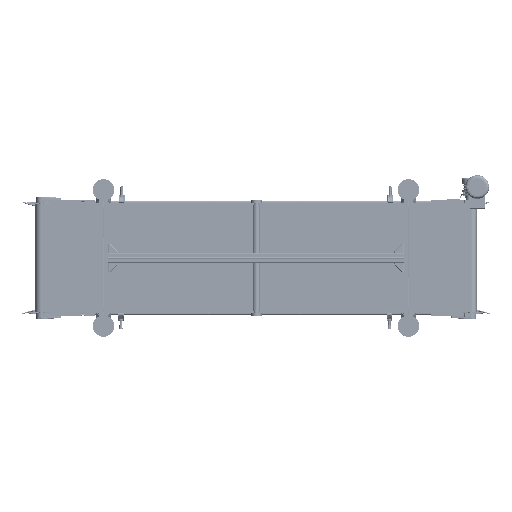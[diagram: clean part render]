
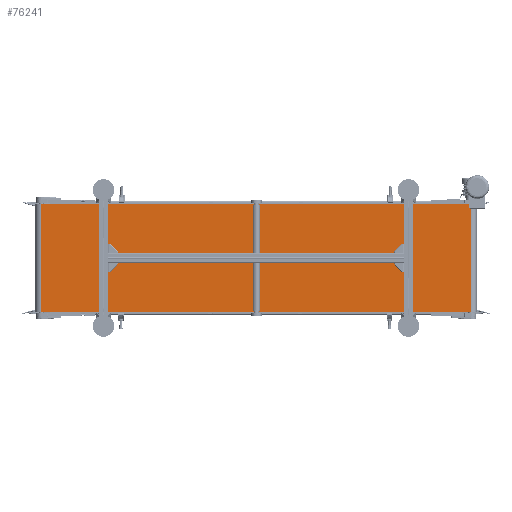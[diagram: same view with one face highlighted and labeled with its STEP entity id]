
A CAD part, front view. The second image highlights one B-rep face of the part: STEP entity #76241.
In plain terms, the highlighted planar face has unit normal (0, -1, 0).
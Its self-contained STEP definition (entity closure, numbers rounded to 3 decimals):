
#10948 = DIRECTION ( 'NONE',  ( 0., 0., 1. ) ) ;
#13475 = CARTESIAN_POINT ( 'NONE',  ( -1000., -27., 250. ) ) ;
#19637 = EDGE_CURVE ( 'NONE', #69105, #141651, #23263, .T. ) ;
#23263 = LINE ( 'NONE', #242170, #67783 ) ;
#30149 = DIRECTION ( 'NONE',  ( 0., 0., -1. ) ) ;
#30308 = VERTEX_POINT ( 'NONE', #156583 ) ;
#35200 = DIRECTION ( 'NONE',  ( 0., 1., 0. ) ) ;
#39583 = CARTESIAN_POINT ( 'NONE',  ( 1000., -27., -250. ) ) ;
#54614 = ORIENTED_EDGE ( 'NONE', *, *, #208978, .F. ) ;
#67783 = VECTOR ( 'NONE', #103928, 1000. ) ;
#69105 = VERTEX_POINT ( 'NONE', #142149 ) ;
#76241 = ADVANCED_FACE ( 'NONE', ( #168497 ), #249055, .F. ) ;
#79326 = CARTESIAN_POINT ( 'NONE',  ( 1000., -27., 250. ) ) ;
#81506 = ORIENTED_EDGE ( 'NONE', *, *, #153943, .T. ) ;
#89297 = CARTESIAN_POINT ( 'NONE',  ( -1000., -27., 250. ) ) ;
#93762 = VERTEX_POINT ( 'NONE', #89297 ) ;
#98540 = LINE ( 'NONE', #79326, #181667 ) ;
#103928 = DIRECTION ( 'NONE',  ( 1., 0., 0. ) ) ;
#126632 = EDGE_CURVE ( 'NONE', #30308, #141651, #98540, .T. ) ;
#133988 = DIRECTION ( 'NONE',  ( 1., 0., 0. ) ) ;
#137800 = CARTESIAN_POINT ( 'NONE',  ( -1000., -27., 250. ) ) ;
#141651 = VERTEX_POINT ( 'NONE', #39583 ) ;
#142149 = CARTESIAN_POINT ( 'NONE',  ( -1000., -27., -250. ) ) ;
#153943 = EDGE_CURVE ( 'NONE', #93762, #69105, #196689, .T. ) ;
#156583 = CARTESIAN_POINT ( 'NONE',  ( 1000., -27., 250. ) ) ;
#157057 = DIRECTION ( 'NONE',  ( 0., 0., -1. ) ) ;
#161021 = ORIENTED_EDGE ( 'NONE', *, *, #19637, .T. ) ;
#165549 = VECTOR ( 'NONE', #157057, 1000. ) ;
#168497 = FACE_OUTER_BOUND ( 'NONE', #224527, .T. ) ;
#179541 = AXIS2_PLACEMENT_3D ( 'NONE', #13475, #35200, #10948 ) ;
#181667 = VECTOR ( 'NONE', #30149, 1000. ) ;
#192915 = CARTESIAN_POINT ( 'NONE',  ( -1000., -27., 250. ) ) ;
#196689 = LINE ( 'NONE', #137800, #165549 ) ;
#208978 = EDGE_CURVE ( 'NONE', #93762, #30308, #231295, .T. ) ;
#214383 = ORIENTED_EDGE ( 'NONE', *, *, #126632, .F. ) ;
#224527 = EDGE_LOOP ( 'NONE', ( #161021, #214383, #54614, #81506 ) ) ;
#224806 = VECTOR ( 'NONE', #133988, 1000. ) ;
#231295 = LINE ( 'NONE', #192915, #224806 ) ;
#242170 = CARTESIAN_POINT ( 'NONE',  ( -1000., -27., -250. ) ) ;
#249055 = PLANE ( 'NONE',  #179541 ) ;
